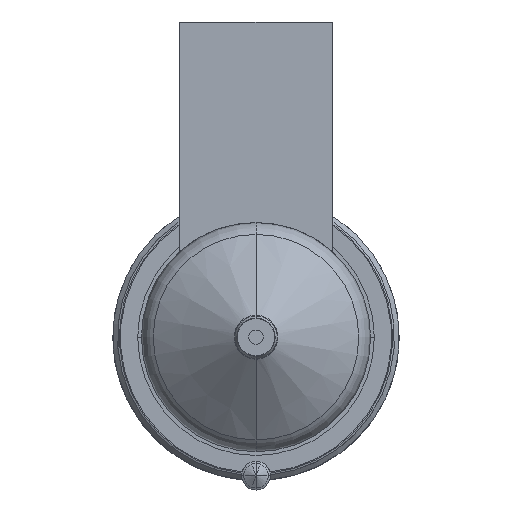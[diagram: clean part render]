
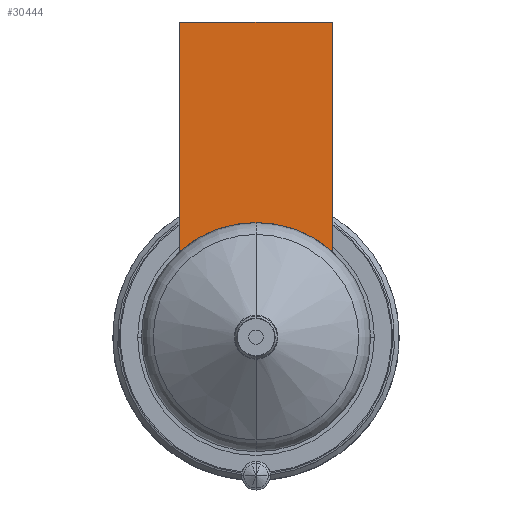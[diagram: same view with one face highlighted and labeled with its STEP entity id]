
A CAD part, front view. The second image highlights one B-rep face of the part: STEP entity #30444.
In plain terms, the highlighted planar face has unit normal (0, -1, 0).
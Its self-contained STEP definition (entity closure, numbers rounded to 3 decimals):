
#29762=DIRECTION('',(0.,0.,-1.));
#29763=VECTOR('',#29762,24.056);
#29764=CARTESIAN_POINT('',(-8.,-56.,33.));
#29765=LINE('',#29764,#29763);
#29802=DIRECTION('',(1.,0.,0.));
#29803=VECTOR('',#29802,16.);
#29804=CARTESIAN_POINT('',(-8.,-56.,33.));
#29805=LINE('',#29804,#29803);
#29809=CARTESIAN_POINT('',(0.,-56.,0.));
#29810=DIRECTION('',(0.,-1.,0.));
#29811=DIRECTION('',(0.667,0.,0.745));
#29812=AXIS2_PLACEMENT_3D('',#29809,#29810,#29811);
#29817=CARTESIAN_POINT('',(0.,-56.,0.));
#29818=DIRECTION('',(0.,-1.,0.));
#29819=DIRECTION('',(0.,0.,1.));
#29820=AXIS2_PLACEMENT_3D('',#29817,#29818,#29819);
#29853=DIRECTION('',(0.,0.,-1.));
#29854=VECTOR('',#29853,24.056);
#29855=CARTESIAN_POINT('',(8.,-56.,33.));
#29856=LINE('',#29855,#29854);
#30308=CARTESIAN_POINT('',(-8.,-56.,33.));
#30309=VERTEX_POINT('',#30308);
#30314=CARTESIAN_POINT('',(8.,-56.,33.));
#30315=VERTEX_POINT('',#30314);
#30318=CARTESIAN_POINT('',(-8.,-56.,8.944));
#30319=VERTEX_POINT('',#30318);
#30322=CARTESIAN_POINT('',(8.,-56.,8.944));
#30323=VERTEX_POINT('',#30322);
#30363=CARTESIAN_POINT('',(0.,-56.,12.));
#30364=VERTEX_POINT('',#30363);
#30429=CARTESIAN_POINT('',(-8.,-56.,33.));
#30430=DIRECTION('',(0.,-1.,0.));
#30431=DIRECTION('',(0.,0.,-1.));
#30432=AXIS2_PLACEMENT_3D('',#30429,#30430,#30431);
#30433=PLANE('',#30432);
#30434=ORIENTED_EDGE('',*,*,#30377,.F.);
#30436=ORIENTED_EDGE('',*,*,#30435,.T.);
#30438=ORIENTED_EDGE('',*,*,#30437,.T.);
#30440=ORIENTED_EDGE('',*,*,#30439,.T.);
#30441=ORIENTED_EDGE('',*,*,#30409,.T.);
#30442=EDGE_LOOP('',(#30434,#30436,#30438,#30440,#30441));
#30443=FACE_OUTER_BOUND('',#30442,.F.);
#30444=ADVANCED_FACE('',(#30443),#30433,.T.);
#29813=CIRCLE('',#29812,12.);
#29821=CIRCLE('',#29820,12.);
#30377=EDGE_CURVE('',#30309,#30319,#29765,.T.);
#30409=EDGE_CURVE('',#30364,#30319,#29821,.T.);
#30435=EDGE_CURVE('',#30309,#30315,#29805,.T.);
#30437=EDGE_CURVE('',#30315,#30323,#29856,.T.);
#30439=EDGE_CURVE('',#30323,#30364,#29813,.T.);
